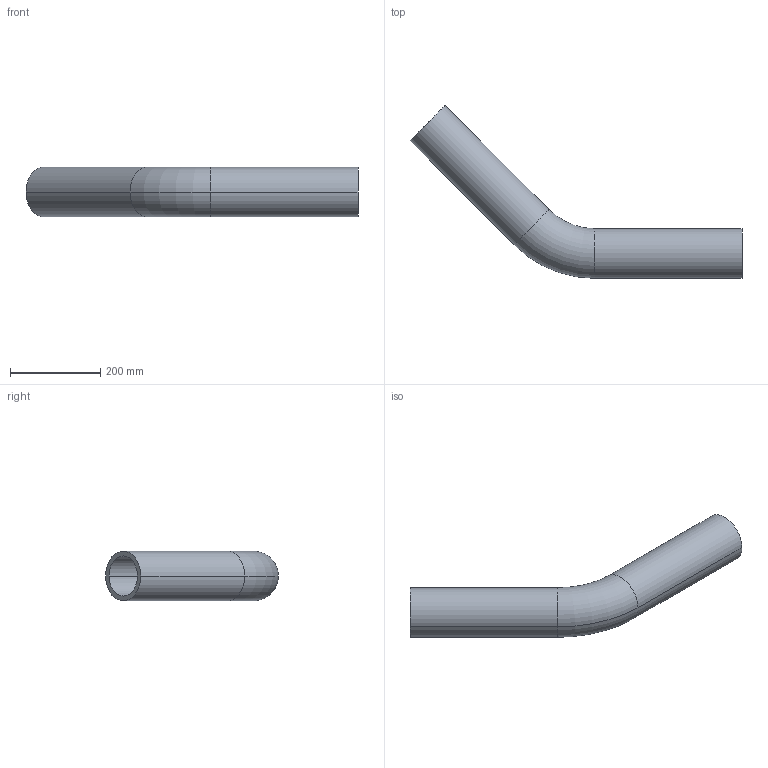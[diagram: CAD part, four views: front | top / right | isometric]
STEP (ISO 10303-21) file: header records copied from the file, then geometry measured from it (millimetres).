
FILE_DESCRIPTION (( 'STEP AP214' ), '1' );
FILE_NAME ('KP_4-110FC.step', '2012-12-14T13:08:54', ( '' ), ( '' ), 'SwSTEP 2.0', 'SolidWorks 2012', '' );
FILE_SCHEMA (( 'AUTOMOTIVE_DESIGN' ));
Length unit declared in the file: millimetre
Products named in the file (1): KP_4-110FC
Bounding box: 737.24 x 383.44 x 110.4 mm (x, y, z)
Volume: 2684434.1 mm3; surface area: 514327.2 mm2
Topology: 1 solids, 1 shells, 14 faces, 28 edges, 16 vertices
Faces by surface type: cylinder 8, torus 4, plane 2
Entity records: 406 total; most frequent: DIRECTION 78, CARTESIAN_POINT 59, ORIENTED_EDGE 56, AXIS2_PLACEMENT_3D 35, EDGE_CURVE 28, CIRCLE 20, EDGE_LOOP 16, VERTEX_POINT 16
